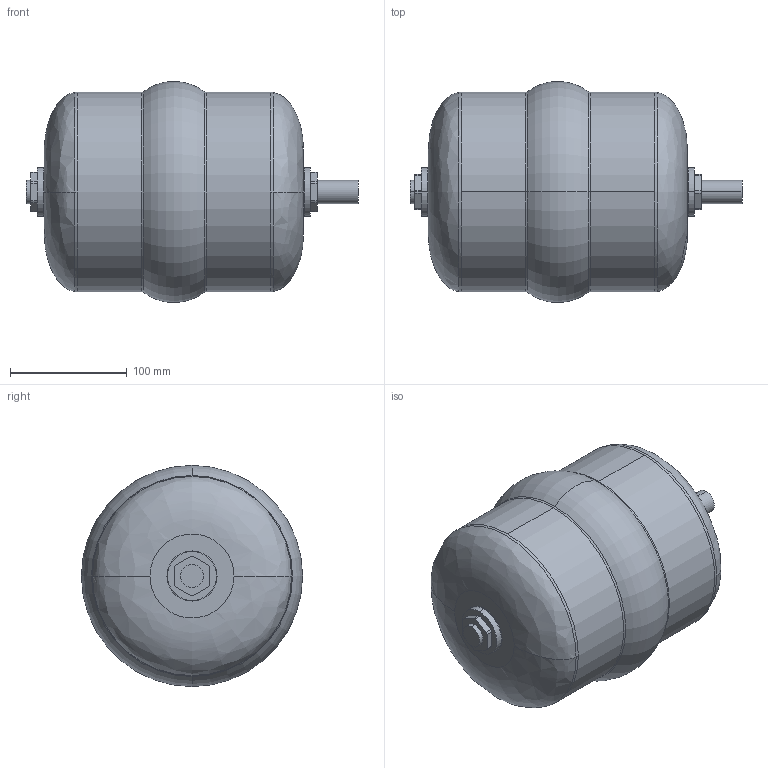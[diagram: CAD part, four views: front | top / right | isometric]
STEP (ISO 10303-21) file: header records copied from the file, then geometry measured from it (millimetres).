
FILE_DESCRIPTION (( 'STEP AP214' ), '1' );
FILE_NAME ('SW4-165mm.STEP', '2017-11-03T20:23:30', ( '' ), ( '' ), 'SwSTEP 2.0', 'SolidWorks 2014', '' );
FILE_SCHEMA (( 'AUTOMOTIVE_DESIGN' ));
Length unit declared in the file: millimetre
Products named in the file (1): SW4-165mm
Bounding box: 284.5 x 189.5 x 189.5 mm (x, y, z)
Volume: 5043804.8 mm3; surface area: 157192.7 mm2
Topology: 1 solids, 1 shells, 64 faces, 152 edges, 96 vertices
Faces by surface type: cylinder 26, plane 20, torus 10, bspline 8
Entity records: 2338 total; most frequent: CARTESIAN_POINT 809, DIRECTION 332, ORIENTED_EDGE 304, EDGE_CURVE 152, AXIS2_PLACEMENT_3D 135, VERTEX_POINT 96, CIRCLE 78, EDGE_LOOP 70
